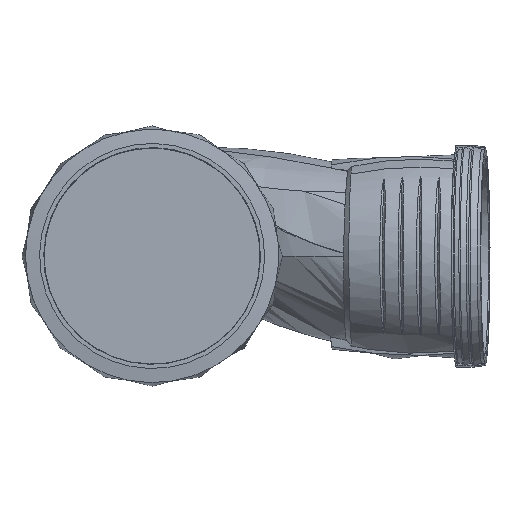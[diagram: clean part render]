
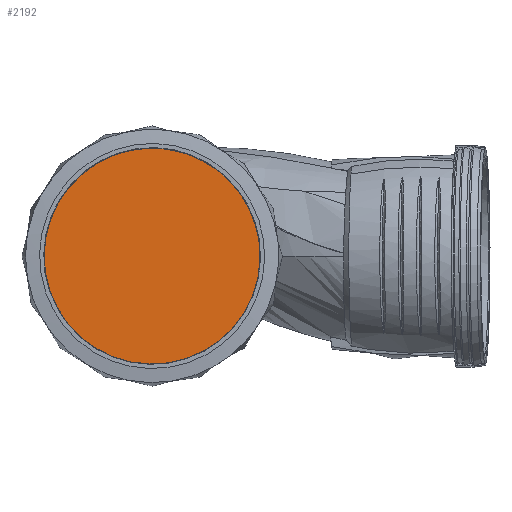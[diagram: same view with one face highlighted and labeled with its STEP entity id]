
A CAD part, top view. The second image highlights one B-rep face of the part: STEP entity #2192.
In plain terms, the highlighted planar face has unit normal (0, 0, 1).
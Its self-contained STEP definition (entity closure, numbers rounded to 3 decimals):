
#150=PLANE('',#2353);
#317=FACE_OUTER_BOUND('',#457,.T.);
#457=EDGE_LOOP('',(#1597,#1598));
#740=CIRCLE('',#2354,45.45);
#741=CIRCLE('',#2355,45.45);
#1003=VERTEX_POINT('',#8952);
#1004=VERTEX_POINT('',#8953);
#1240=EDGE_CURVE('',#1003,#1004,#740,.T.);
#1241=EDGE_CURVE('',#1004,#1003,#741,.T.);
#1597=ORIENTED_EDGE('',*,*,#1240,.F.);
#1598=ORIENTED_EDGE('',*,*,#1241,.F.);
#2192=ADVANCED_FACE('',(#317),#150,.F.);
#2353=AXIS2_PLACEMENT_3D('',#8951,#2606,#2607);
#2354=AXIS2_PLACEMENT_3D('',#8954,#2608,#2609);
#2355=AXIS2_PLACEMENT_3D('',#8955,#2610,#2611);
#2606=DIRECTION('center_axis',(0.,0.,-1.));
#2607=DIRECTION('ref_axis',(-1.,0.,0.));
#2608=DIRECTION('center_axis',(0.,0.,-1.));
#2609=DIRECTION('ref_axis',(-0.479,0.878,0.));
#2610=DIRECTION('center_axis',(0.,0.,-1.));
#2611=DIRECTION('ref_axis',(-0.479,0.878,0.));
#8951=CARTESIAN_POINT('Origin',(0.,0.,32.));
#8952=CARTESIAN_POINT('',(-9.197,44.51,32.));
#8953=CARTESIAN_POINT('',(21.79,-39.886,32.));
#8954=CARTESIAN_POINT('Origin',(0.,0.,32.));
#8955=CARTESIAN_POINT('Origin',(0.,0.,32.));
